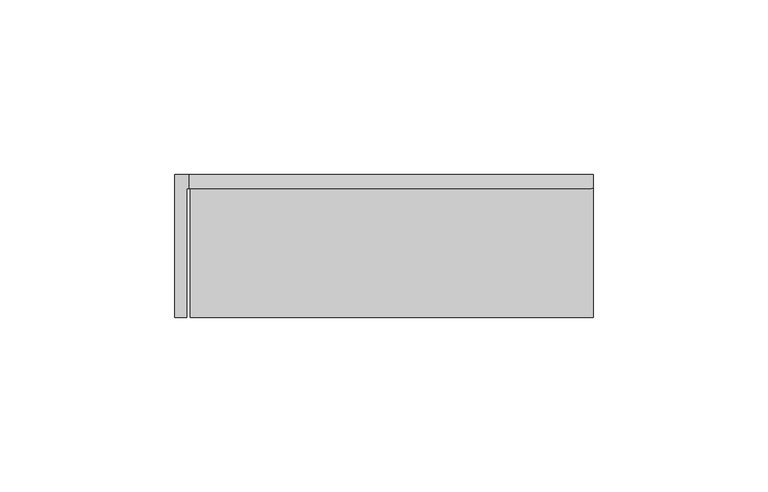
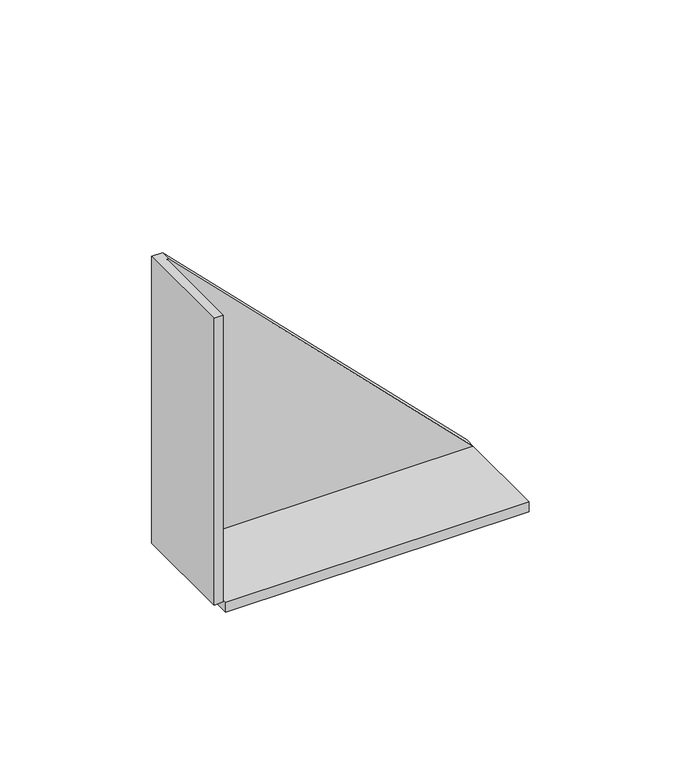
"""IFC4 building model written with IfcOpenShell, lengths in millimetres: proxy geometry, 4182D_Accessory-Basorfix : Basorfix 4182D GC70."""

from ifc_helpers import new_model, si_unit, origin, place, context, project, spatial, faceted_brep, source, transform, mapped, element, save


def generic_models_0bfd6c34(model_context):
    return source(origin(), model_context, "Body", "Brep", [
        faceted_brep([(4.5, -37.0, 4.0), (120.0, -37.0, 4.0), (120.0, 0.0, 4.0), (4.5, 0.0, 4.0), (120.0, -37.0, 0.0), (4.5, -37.0, 0.0), (4.5, 4.0, 0.0), (120.0, 4.0, 0.0), (120.0, 0.0, 0.0), (120.0, 4.0, 4.0), (4.5, 4.0, 4.5), (0.0, 4.0, 4.5), (0.0, 4.0, 119.9089473), (4.0910527, 4.0, 119.9089473), (4.5, 0.0, 4.5), (4.0910527, 0.0, 119.9089473), (3.5, 0.0, 119.9089473), (3.5, 0.0, 4.5), (0.0, -37.0, 4.5), (3.5, -37.0, 4.5), (3.5, -37.0, 119.9089473), (0.0, -37.0, 119.9089473)], [[[0, 1, 2, 3]], [[4, 5, 6, 7, 8]], [[1, 4, 8, 7, 9, 2]], [[1, 0, 5, 4]], [[7, 6, 10, 11, 12, 13, 9]], [[5, 0, 3, 14, 10, 6]], [[2, 15, 16, 17, 14, 3]], [[18, 19, 20, 21]], [[20, 19, 17, 16]], [[10, 14, 17, 19, 18, 11]], [[12, 11, 18, 21]], [[12, 21, 20, 16, 15, 13]], [[15, 2, 9, 13]]]),
    ])


if __name__ == "__main__":
    model = new_model("IFC4")
    model_context = context("Model", 3, world=origin())
    ifc_project = project(units=[si_unit("LENGTHUNIT", "METRE", prefix="MILLI")], contexts=[model_context])
    site = spatial("IfcSite", under=ifc_project)
    building = spatial("IfcBuilding", under=site)
    placement = place(None, origin())
    generic_models_shape = generic_models_0bfd6c34(model_context)
    element("IfcBuildingElementProxy", 1, Name="4182D_Accessory-Basorfix : Basorfix 4182D GC70", ObjectType="4182D_Accessory-Basorfix : Basorfix 4182D GC70", at=placement, inside=building, context=model_context, shape_type="MappedRepresentation", body=[
        mapped(generic_models_shape, transform((0.0, 0.0, 0.0), x_axis=(1.0, 0.0, 0.0), y_axis=(0.0, 1.0, 0.0), z_axis=(0.0, 0.0, 1.0))),
    ])
    save(model, "model.ifc")
